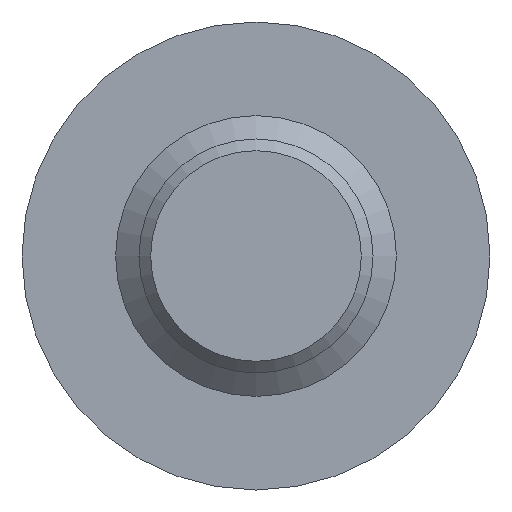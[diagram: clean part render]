
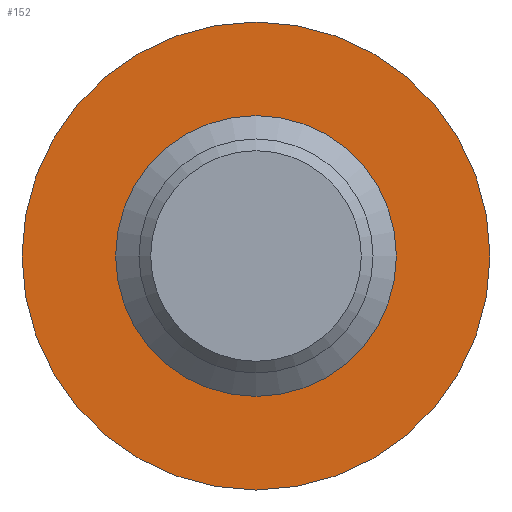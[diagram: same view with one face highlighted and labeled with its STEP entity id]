
A CAD part, front view. The second image highlights one B-rep face of the part: STEP entity #152.
In plain terms, the highlighted planar face has unit normal (0, -1, 0).
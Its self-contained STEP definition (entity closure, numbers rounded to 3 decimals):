
#15=FACE_BOUND('',#57,.T.);
#21=PLANE('',#195);
#45=FACE_OUTER_BOUND('',#56,.T.);
#56=EDGE_LOOP('',(#129));
#57=EDGE_LOOP('',(#130));
#67=CIRCLE('',#186,10.);
#72=CIRCLE('',#196,5.25);
#79=VERTEX_POINT('',#270);
#84=VERTEX_POINT('',#288);
#93=EDGE_CURVE('',#79,#79,#67,.T.);
#100=EDGE_CURVE('',#84,#84,#72,.T.);
#129=ORIENTED_EDGE('',*,*,#93,.F.);
#130=ORIENTED_EDGE('',*,*,#100,.F.);
#152=ADVANCED_FACE('',(#45,#15),#21,.F.);
#186=AXIS2_PLACEMENT_3D('',#272,#219,#220);
#195=AXIS2_PLACEMENT_3D('',#287,#239,#240);
#196=AXIS2_PLACEMENT_3D('',#289,#241,#242);
#219=DIRECTION('center_axis',(0.,1.,0.));
#220=DIRECTION('ref_axis',(1.,0.,0.));
#239=DIRECTION('center_axis',(0.,1.,0.));
#240=DIRECTION('ref_axis',(0.,0.,1.));
#241=DIRECTION('center_axis',(0.,-1.,0.));
#242=DIRECTION('ref_axis',(1.,0.,0.));
#270=CARTESIAN_POINT('',(-10.,35.7,0.));
#272=CARTESIAN_POINT('Origin',(0.,35.7,0.));
#287=CARTESIAN_POINT('Origin',(0.,35.7,0.));
#288=CARTESIAN_POINT('',(-5.25,35.7,0.));
#289=CARTESIAN_POINT('Origin',(0.,35.7,0.));
